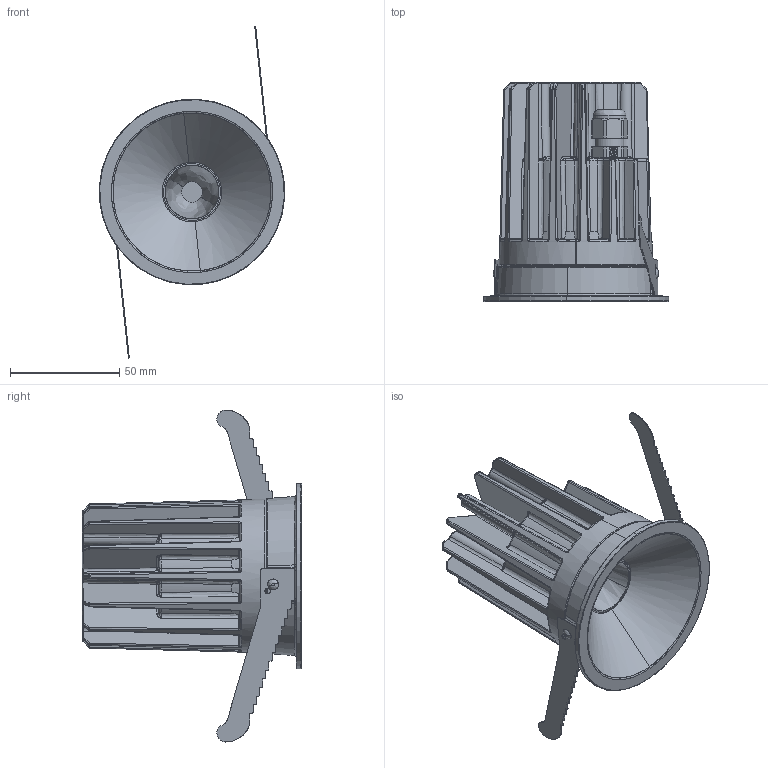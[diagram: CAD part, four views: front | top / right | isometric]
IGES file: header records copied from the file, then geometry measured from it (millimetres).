
Start section: SolidWorks IGES file using analytic representation for surfaces
Global section: file name: C:\Users\JoãoSantos\Desktop\02_3D.2D\01_2020\01_Spot On\01_One_x\02_One Novo\One Medium\ONE MEDIUM.IGS; native system: SolidWorks 2020; preprocessor: SolidWorks 2020; author: JoãoSantos; date: 201019.160047; units: millimetre
Bounding box: 84.79 x 100.25 x 151.92 mm (x, y, z)
Surface area: 61282.4 mm2 (no closed solid volume)
Topology: 0 solids, 0 shells, 1362 faces, 12001 edges, 11940 vertices
Faces by surface type: bspline 915, revolution 447
